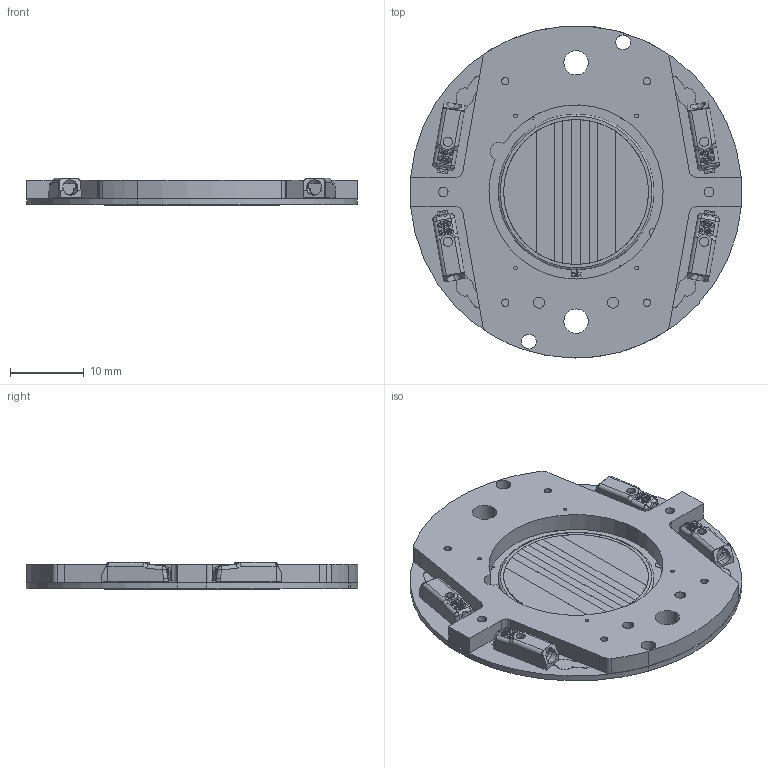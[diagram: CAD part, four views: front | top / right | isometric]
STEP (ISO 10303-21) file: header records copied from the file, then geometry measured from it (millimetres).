
FILE_DESCRIPTION (( 'STEP AP214' ), '1' );
FILE_NAME ('NTW 18 Holder-CoB Assembly.STEP', '2020-06-23T02:18:08', ( '' ), ( '' ), 'SwSTEP 2.0', 'SolidWorks 2020', '' );
FILE_SCHEMA (( 'AUTOMOTIVE_DESIGN' ));
Length unit declared in the file: millimetre
Products named in the file (1): NTW 18 Holder-CoB Assembly
Bounding box: 44.84 x 44.98 x 3.69 mm (x, y, z)
Volume: 3651.8 mm3; surface area: 6134.7 mm2
Topology: 1 solids, 1 shells, 1606 faces, 4408 edges, 2906 vertices
Faces by surface type: plane 968, cylinder 528, bspline 80, torus 18, sphere 8, cone 4
Entity records: 77251 total; most frequent: CARTESIAN_POINT 18616, ORIENTED_EDGE 8800, DIRECTION 8149, EDGE_CURVE 4400, LINE 3059, VECTOR 3059, VERTEX_POINT 2906, AXIS2_PLACEMENT_3D 2545
